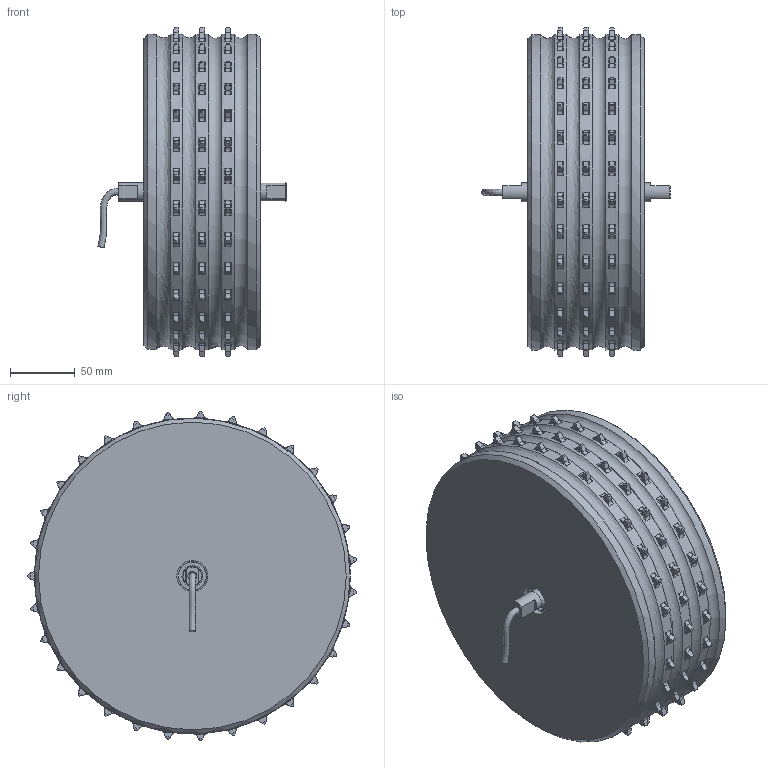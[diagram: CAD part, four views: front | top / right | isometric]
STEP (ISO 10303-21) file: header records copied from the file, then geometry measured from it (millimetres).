
FILE_DESCRIPTION((''),'2;1');
FILE_NAME('E:\SAT-STEP-DATEIEN-Scheibenantriebe\Scheibenantrieb-20-SW10-Z31-BB10-25.stp','2009-08-16T09:59:54',('Siegmund'),(''),'Autodesk Inventor 11','Autodesk Inventor 11','');
FILE_SCHEMA(('AUTOMOTIVE_DESIGN { 1 0 10303 214 1 1 1 1 }'));
Length unit declared in the file: millimetre
Products named in the file (5): Scheibenantrieb-20-SW10-Z31-BB10-25; 20-Achse-mit-SW; ZKGF-25,4-B-31-1-31-Positivform; 6202; kabel-2
Assembly tree (5 placements, depth 2):
  Scheibenantrieb-20-SW10-Z31-BB10-25
    20-Achse-mit-SW
    ZKGF-25,4-B-31-1-31-Positivform
    6202  x2
    kabel-2
Bounding box: 145.74 x 254.48 x 254.8 mm (x, y, z)
Volume: 4099472.8 mm3; surface area: 202010.2 mm2
Topology: 21 solids, 21 shells, 1162 faces, 3105 edges, 2059 vertices
Faces by surface type: cylinder 499, bspline 314, plane 131, torus 103, cone 101, sphere 14
Full cylindrical faces by diameter (mm): 14 x2, 14.5 x4, 15 x4, 16 x1, 16.5 x1, 17.05 x1, 18.5 x1, 21.52 x4, 22 x2, 24 x2, 28.48 x4, 35 x3, 243.983 x5
Entity records: 43206 total; most frequent: CARTESIAN_POINT 16154, ORIENTED_EDGE 5900, DIRECTION 5488, EDGE_CURVE 2950, AXIS2_PLACEMENT_3D 2455, VERTEX_POINT 1975, CIRCLE 1616, EDGE_LOOP 1291
